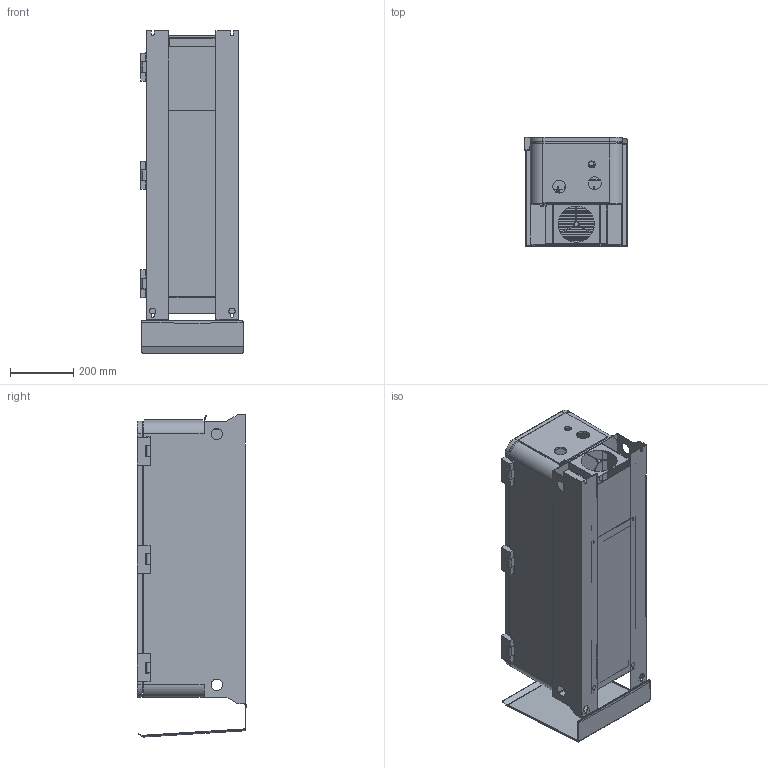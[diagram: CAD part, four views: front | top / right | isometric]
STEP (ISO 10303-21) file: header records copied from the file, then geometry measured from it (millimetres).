
FILE_DESCRIPTION((''),'2;1');
FILE_NAME('VFAS3_SA4E_ASM','2017-06-16T',('SESA57284'),('Schneider-Electric'),'PRO/ENGINEER BY PARAMETRIC TECHNOLOGY CORPORATION, 2015440','PRO/ENGINEER BY PARAMETRIC TECHNOLOGY CORPORATION, 2015440','');
FILE_SCHEMA(('CONFIG_CONTROL_DESIGN'));
Products named in the file (13): PRT0001_1; PRT0002_1; ASM0003_ASM_1_ASM; PRT0004_1; PRT0005_1; ASM0004_ASM_1_ASM; PRT0009_1; PRT0010_1; PRT0012_1; PRT0013_1; ASM0002_ASM_1_ASM; ASM0001_ASM_1_ASM; VFAS3_SA4E_ASM
Assembly tree (12 placements, depth 5):
  VFAS3_SA4E_ASM
    ASM0001_ASM_1_ASM
      ASM0002_ASM_1_ASM
        ASM0003_ASM_1_ASM
          PRT0001_1
          PRT0002_1
        PRT0004_1
        PRT0005_1
        ASM0004_ASM_1_ASM
        PRT0009_1
        PRT0010_1
        PRT0012_1
        PRT0013_1
Bounding box: 322 x 344 x 1014.97 mm (x, y, z)
Volume: 13098069.3 mm3; surface area: 4412757 mm2
Topology: 8 solids, 11 shells, 2367 faces, 6539 edges, 4295 vertices
Faces by surface type: plane 1735, cylinder 526, cone 63, sphere 30, bspline 8, torus 4, extrusion 1
Entity records: 77425 total; most frequent: CARTESIAN_POINT 15883, ORIENTED_EDGE 13050, DIRECTION 12401, EDGE_CURVE 6525, VECTOR 4541, LINE 4540, VERTEX_POINT 4294, AXIS2_PLACEMENT_3D 3930
